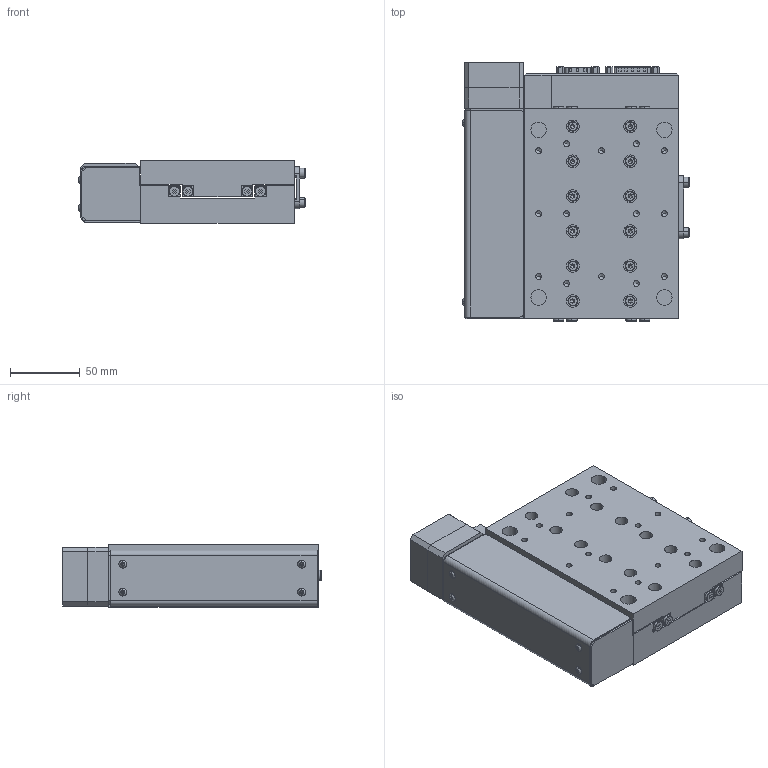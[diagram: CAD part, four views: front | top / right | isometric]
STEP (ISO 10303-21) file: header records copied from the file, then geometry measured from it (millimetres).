
FILE_DESCRIPTION (( 'STEP AP214' ), '1' );
FILE_NAME ('LNS-050-BS-A-M-S-EXPORT.STEP', '2025-06-27T18:06:15', ( 'lab' ), ( '' ), 'SwSTEP 2.0', 'SolidWorks 2018', '' );
FILE_SCHEMA (( 'AUTOMOTIVE_DESIGN' ));
Length unit declared in the file: millimetre
Products named in the file (9): 1000012_file_export17; 1000006; 1000010_file_export16; 1000013_file_export22; 1000015_file_export21; 1000014_file_export23; 1000011_file_export14; 1000001_file_export0; LNS-050-BS-A-M-S-EXPORT
Assembly tree (14 placements, depth 2):
  LNS-050-BS-A-M-S-EXPORT
    1000001_file_export0
    1000006
    1000010_file_export16  x4
    1000011_file_export14
    1000012_file_export17
    1000013_file_export22  x4
    1000014_file_export23
    1000015_file_export21
Bounding box: 162.5 x 185 x 45 mm (x, y, z)
Volume: 1067197 mm3; surface area: 216815.8 mm2
Topology: 70 solids, 70 shells, 1720 faces, 3898 edges, 2357 vertices
Faces by surface type: plane 1056, cylinder 326, bspline 170, cone 160, torus 8
Entity records: 54438 total; most frequent: CARTESIAN_POINT 13611, DIRECTION 7084, ORIENTED_EDGE 7036, EDGE_CURVE 3518, AXIS2_PLACEMENT_3D 2393, LINE 2298, VECTOR 2298, VERTEX_POINT 2180
